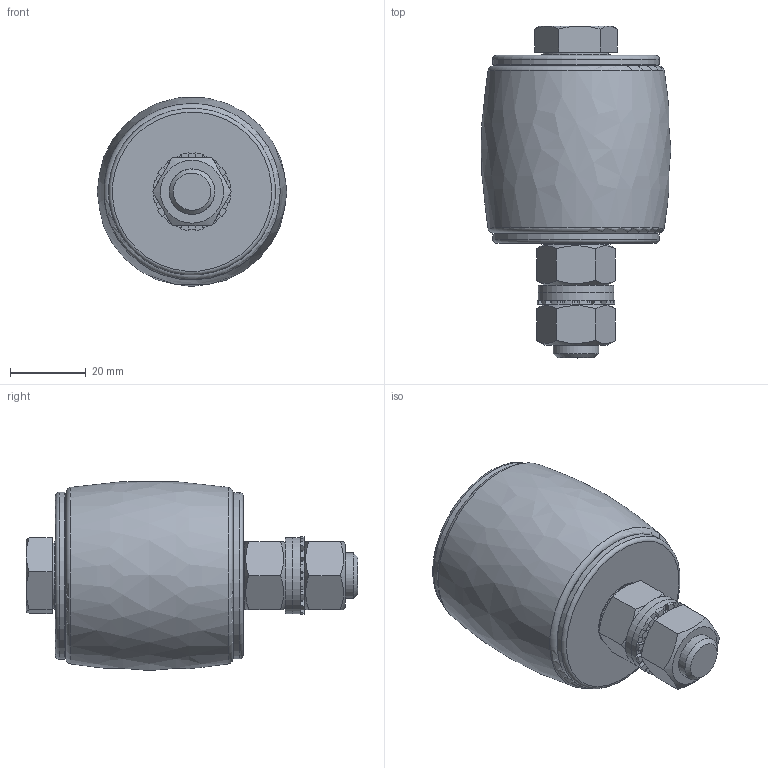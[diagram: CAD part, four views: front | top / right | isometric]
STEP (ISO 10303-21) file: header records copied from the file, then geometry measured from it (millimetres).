
FILE_DESCRIPTION(/* description */ (''),/* implementation_level */ '2;1');
FILE_NAME(/* name */ 'Q:\sge-ma\Produktmanagement-STB\STB\Workspace\TraceParts\Außenführungsrolle, Nylon, lose\010334010.stp',/* time_stamp */ '2016-07-20T11:18:40+02:00',/* author */ ('avschreier'),/* organization */ (''),/* preprocessor_version */ 'ST-DEVELOPER v16.1',/* originating_system */ 'Autodesk Inventor 2016',/* authorisation */ '');
FILE_SCHEMA (('CONFIG_CONTROL_DESIGN'));
Length unit declared in the file: millimetre
Products named in the file (7): 337000288; 337000289; DIN_6798-A_13_en; DIN_EN_ISO_4032-M12_en; DIN_433-13_en; DIN_EN_ISO_4017-M12x80_en; 010334010
Assembly tree (9 placements, depth 2):
  010334010
    337000288
    337000289  x2
    DIN_6798-A_13_en
    DIN_EN_ISO_4032-M12_en  x2
    DIN_433-13_en  x2
    DIN_EN_ISO_4017-M12x80_en
Bounding box: 50 x 87.5 x 49.83 mm (x, y, z)
Volume: 75238.1 mm3; surface area: 41272.5 mm2
Topology: 9 solids, 9 shells, 233 faces, 603 edges, 394 vertices
Faces by surface type: plane 90, cylinder 78, cone 54, torus 10, bspline 1
Full cylindrical faces by diameter (mm): 10.106 x2, 11.053 x1, 12 x1, 13 x3, 17.2 x1, 18 x2, 20 x2, 44 x2
Entity records: 6523 total; most frequent: CARTESIAN_POINT 1306, DIRECTION 1096, ORIENTED_EDGE 1044, EDGE_CURVE 522, AXIS2_PLACEMENT_3D 443, VERTEX_POINT 359, EDGE_LOOP 261, CIRCLE 223
